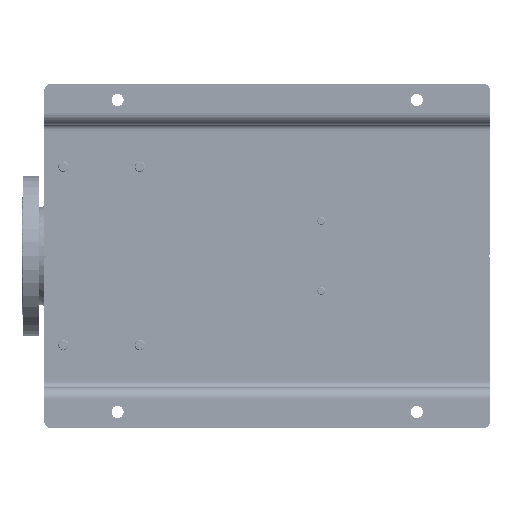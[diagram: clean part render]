
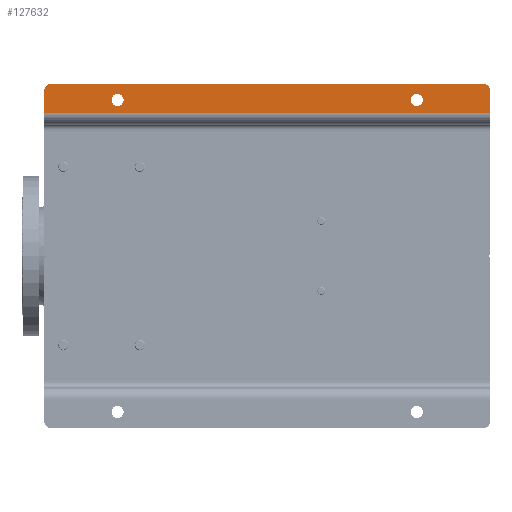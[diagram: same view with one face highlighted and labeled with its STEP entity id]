
A CAD part, front view. The second image highlights one B-rep face of the part: STEP entity #127632.
In plain terms, the highlighted planar face has unit normal (0, -1, 0).
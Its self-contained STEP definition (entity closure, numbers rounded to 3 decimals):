
#2345 = VERTEX_POINT ( 'NONE', #173025 ) ;
#3721 = VECTOR ( 'NONE', #184924, 1000. ) ;
#5778 = EDGE_CURVE ( 'NONE', #17940, #151099, #66600, .T. ) ;
#6146 = CIRCLE ( 'NONE', #149916, 10. ) ;
#8495 = DIRECTION ( 'NONE',  ( 0., 0., -1. ) ) ;
#10070 = CARTESIAN_POINT ( 'NONE',  ( 530., 0., 0. ) ) ;
#11244 = ORIENTED_EDGE ( 'NONE', *, *, #115930, .T. ) ;
#11431 = CARTESIAN_POINT ( 'NONE',  ( 515., 0., -594.5 ) ) ;
#13602 = FACE_BOUND ( 'NONE', #46951, .T. ) ;
#14836 = CARTESIAN_POINT ( 'NONE',  ( 477., 0., -700. ) ) ;
#15429 = CARTESIAN_POINT ( 'NONE',  ( 477., 0., -700. ) ) ;
#16836 = VERTEX_POINT ( 'NONE', #165913 ) ;
#17940 = VERTEX_POINT ( 'NONE', #135719 ) ;
#18129 = ORIENTED_EDGE ( 'NONE', *, *, #5778, .T. ) ;
#25818 = FACE_BOUND ( 'NONE', #59509, .T. ) ;
#26574 = AXIS2_PLACEMENT_3D ( 'NONE', #15429, #142965, #56705 ) ;
#26956 = CARTESIAN_POINT ( 'NONE',  ( 515., 0., -585. ) ) ;
#28796 = DIRECTION ( 'NONE',  ( 0., 1., 0. ) ) ;
#34945 = DIRECTION ( 'NONE',  ( 0., 0., -1. ) ) ;
#35760 = ORIENTED_EDGE ( 'NONE', *, *, #162876, .T. ) ;
#39420 = CARTESIAN_POINT ( 'NONE',  ( 515., 0., -115. ) ) ;
#39700 = EDGE_CURVE ( 'NONE', #46812, #175894, #48564, .T. ) ;
#39935 = EDGE_CURVE ( 'NONE', #17940, #176344, #170869, .T. ) ;
#43088 = DIRECTION ( 'NONE',  ( 0., 0., -1. ) ) ;
#46812 = VERTEX_POINT ( 'NONE', #73836 ) ;
#46951 = EDGE_LOOP ( 'NONE', ( #68872, #153162 ) ) ;
#48564 = CIRCLE ( 'NONE', #171324, 9.5 ) ;
#48930 = VECTOR ( 'NONE', #157388, 1000. ) ;
#51689 = CARTESIAN_POINT ( 'NONE',  ( 540., 0., -700. ) ) ;
#52160 = DIRECTION ( 'NONE',  ( 0., -1., 0. ) ) ;
#53463 = DIRECTION ( 'NONE',  ( 0., 1., 0. ) ) ;
#54114 = CARTESIAN_POINT ( 'NONE',  ( 515., 0., -105.5 ) ) ;
#56705 = DIRECTION ( 'NONE',  ( 0., 0., -1. ) ) ;
#58416 = ORIENTED_EDGE ( 'NONE', *, *, #39700, .T. ) ;
#59509 = EDGE_LOOP ( 'NONE', ( #58416, #11244 ) ) ;
#64291 = CIRCLE ( 'NONE', #151188, 10. ) ;
#66600 = LINE ( 'NONE', #126591, #113473 ) ;
#68872 = ORIENTED_EDGE ( 'NONE', *, *, #157427, .T. ) ;
#70082 = DIRECTION ( 'NONE',  ( 0., 0., -1. ) ) ;
#70562 = EDGE_CURVE ( 'NONE', #16836, #94674, #64291, .T. ) ;
#70769 = FACE_OUTER_BOUND ( 'NONE', #153084, .T. ) ;
#73133 = AXIS2_PLACEMENT_3D ( 'NONE', #148445, #176572, #34945 ) ;
#73836 = CARTESIAN_POINT ( 'NONE',  ( 515., 0., -575.5 ) ) ;
#74698 = CARTESIAN_POINT ( 'NONE',  ( 540., 0., -10. ) ) ;
#75976 = CIRCLE ( 'NONE', #99959, 9.5 ) ;
#77970 = LINE ( 'NONE', #51689, #85970 ) ;
#81038 = CARTESIAN_POINT ( 'NONE',  ( 515., 0., -585. ) ) ;
#83650 = ORIENTED_EDGE ( 'NONE', *, *, #183449, .T. ) ;
#85970 = VECTOR ( 'NONE', #166116, 1000. ) ;
#88550 = ORIENTED_EDGE ( 'NONE', *, *, #104861, .T. ) ;
#94674 = VERTEX_POINT ( 'NONE', #147899 ) ;
#96527 = VERTEX_POINT ( 'NONE', #74698 ) ;
#96607 = DIRECTION ( 'NONE',  ( 0., 0., -1. ) ) ;
#98145 = VERTEX_POINT ( 'NONE', #54114 ) ;
#99959 = AXIS2_PLACEMENT_3D ( 'NONE', #26956, #28796, #70082 ) ;
#100170 = LINE ( 'NONE', #14836, #48930 ) ;
#104861 = EDGE_CURVE ( 'NONE', #151099, #16836, #100170, .T. ) ;
#109344 = DIRECTION ( 'NONE',  ( 0., 0., -1. ) ) ;
#111019 = DIRECTION ( 'NONE',  ( 0., 0., -1. ) ) ;
#113473 = VECTOR ( 'NONE', #8495, 1000. ) ;
#114313 = DIRECTION ( 'NONE',  ( 0., -1., 0. ) ) ;
#115930 = EDGE_CURVE ( 'NONE', #175894, #46812, #75976, .T. ) ;
#119422 = AXIS2_PLACEMENT_3D ( 'NONE', #39420, #53463, #96607 ) ;
#126591 = CARTESIAN_POINT ( 'NONE',  ( 495., 0., -700. ) ) ;
#127632 = ADVANCED_FACE ( 'NONE', ( #13602, #25818, #70769 ), #127972, .T. ) ;
#127972 = PLANE ( 'NONE',  #26574 ) ;
#128079 = EDGE_CURVE ( 'NONE', #2345, #98145, #152421, .T. ) ;
#131864 = CARTESIAN_POINT ( 'NONE',  ( 495., 0., -700. ) ) ;
#135719 = CARTESIAN_POINT ( 'NONE',  ( 495., 0., 0. ) ) ;
#136084 = CIRCLE ( 'NONE', #73133, 9.5 ) ;
#140965 = ORIENTED_EDGE ( 'NONE', *, *, #70562, .T. ) ;
#142965 = DIRECTION ( 'NONE',  ( 0., -1., 0. ) ) ;
#147899 = CARTESIAN_POINT ( 'NONE',  ( 540., 0., -690. ) ) ;
#148445 = CARTESIAN_POINT ( 'NONE',  ( 515., 0., -115. ) ) ;
#149916 = AXIS2_PLACEMENT_3D ( 'NONE', #172464, #114313, #43088 ) ;
#151099 = VERTEX_POINT ( 'NONE', #131864 ) ;
#151188 = AXIS2_PLACEMENT_3D ( 'NONE', #180631, #52160, #109344 ) ;
#152421 = CIRCLE ( 'NONE', #119422, 9.5 ) ;
#153084 = EDGE_LOOP ( 'NONE', ( #181444, #18129, #88550, #140965, #35760, #83650 ) ) ;
#153162 = ORIENTED_EDGE ( 'NONE', *, *, #128079, .T. ) ;
#155894 = CARTESIAN_POINT ( 'NONE',  ( 477., 0., 0. ) ) ;
#157388 = DIRECTION ( 'NONE',  ( 1., 0., 0. ) ) ;
#157427 = EDGE_CURVE ( 'NONE', #98145, #2345, #136084, .T. ) ;
#162876 = EDGE_CURVE ( 'NONE', #94674, #96527, #77970, .T. ) ;
#165913 = CARTESIAN_POINT ( 'NONE',  ( 530., 0., -700. ) ) ;
#166116 = DIRECTION ( 'NONE',  ( 0., 0., 1. ) ) ;
#170869 = LINE ( 'NONE', #155894, #3721 ) ;
#171324 = AXIS2_PLACEMENT_3D ( 'NONE', #81038, #182304, #111019 ) ;
#172464 = CARTESIAN_POINT ( 'NONE',  ( 530., 0., -10. ) ) ;
#173025 = CARTESIAN_POINT ( 'NONE',  ( 515., 0., -124.5 ) ) ;
#175894 = VERTEX_POINT ( 'NONE', #11431 ) ;
#176344 = VERTEX_POINT ( 'NONE', #10070 ) ;
#176572 = DIRECTION ( 'NONE',  ( 0., 1., 0. ) ) ;
#180631 = CARTESIAN_POINT ( 'NONE',  ( 530., 0., -690. ) ) ;
#181444 = ORIENTED_EDGE ( 'NONE', *, *, #39935, .F. ) ;
#182304 = DIRECTION ( 'NONE',  ( 0., 1., 0. ) ) ;
#183449 = EDGE_CURVE ( 'NONE', #96527, #176344, #6146, .T. ) ;
#184924 = DIRECTION ( 'NONE',  ( 1., 0., 0. ) ) ;
